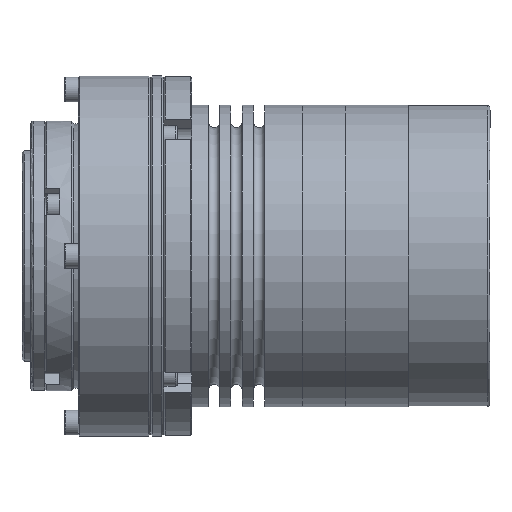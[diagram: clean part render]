
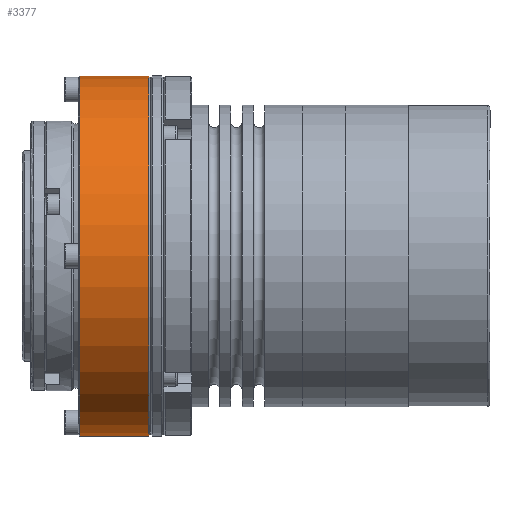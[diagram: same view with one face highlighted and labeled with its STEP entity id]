
A CAD part, left-side view. The second image highlights one B-rep face of the part: STEP entity #3377.
In plain terms, the highlighted cylindrical face has radius 40 mm (diameter 80 mm), a full revolution.
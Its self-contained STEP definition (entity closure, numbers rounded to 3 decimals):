
#3377 = ADVANCED_FACE ( 'NONE', ( #23391, #21094 ), #24417, .T. ) ;
#3564 = DIRECTION ( 'NONE',  ( 0., 1., 0. ) ) ;
#4055 = DIRECTION ( 'NONE',  ( 0., 1., 0. ) ) ;
#4460 = ORIENTED_EDGE ( 'NONE', *, *, #6193, .F. ) ;
#6193 = EDGE_CURVE ( 'NONE', #19989, #19989, #12376, .T. ) ;
#6538 = ORIENTED_EDGE ( 'NONE', *, *, #25585, .T. ) ;
#7054 = CIRCLE ( 'NONE', #19676, 40. ) ;
#7994 = DIRECTION ( 'NONE',  ( 0., 0., 1. ) ) ;
#9445 = AXIS2_PLACEMENT_3D ( 'NONE', #19264, #4055, #19875 ) ;
#11529 = EDGE_LOOP ( 'NONE', ( #4460 ) ) ;
#12303 = DIRECTION ( 'NONE',  ( 0., 0., 1. ) ) ;
#12376 = CIRCLE ( 'NONE', #9445, 40. ) ;
#14131 = CARTESIAN_POINT ( 'NONE',  ( 0., 28.388, 0. ) ) ;
#17575 = CARTESIAN_POINT ( 'NONE',  ( 0., 15.7, -40. ) ) ;
#19264 = CARTESIAN_POINT ( 'NONE',  ( 0., 15.7, 0. ) ) ;
#19676 = AXIS2_PLACEMENT_3D ( 'NONE', #25985, #24732, #12303 ) ;
#19875 = DIRECTION ( 'NONE',  ( 0., 0., -1. ) ) ;
#19954 = AXIS2_PLACEMENT_3D ( 'NONE', #14131, #3564, #7994 ) ;
#19989 = VERTEX_POINT ( 'NONE', #17575 ) ;
#21094 = FACE_OUTER_BOUND ( 'NONE', #26565, .T. ) ;
#21505 = VERTEX_POINT ( 'NONE', #27517 ) ;
#23391 = FACE_OUTER_BOUND ( 'NONE', #11529, .T. ) ;
#24417 = CYLINDRICAL_SURFACE ( 'NONE', #19954, 40. ) ;
#24732 = DIRECTION ( 'NONE',  ( 0., 1., 0. ) ) ;
#25585 = EDGE_CURVE ( 'NONE', #21505, #21505, #7054, .T. ) ;
#25985 = CARTESIAN_POINT ( 'NONE',  ( 0., 0.3, 0. ) ) ;
#26565 = EDGE_LOOP ( 'NONE', ( #6538 ) ) ;
#27517 = CARTESIAN_POINT ( 'NONE',  ( 0., 0.3, 40. ) ) ;
